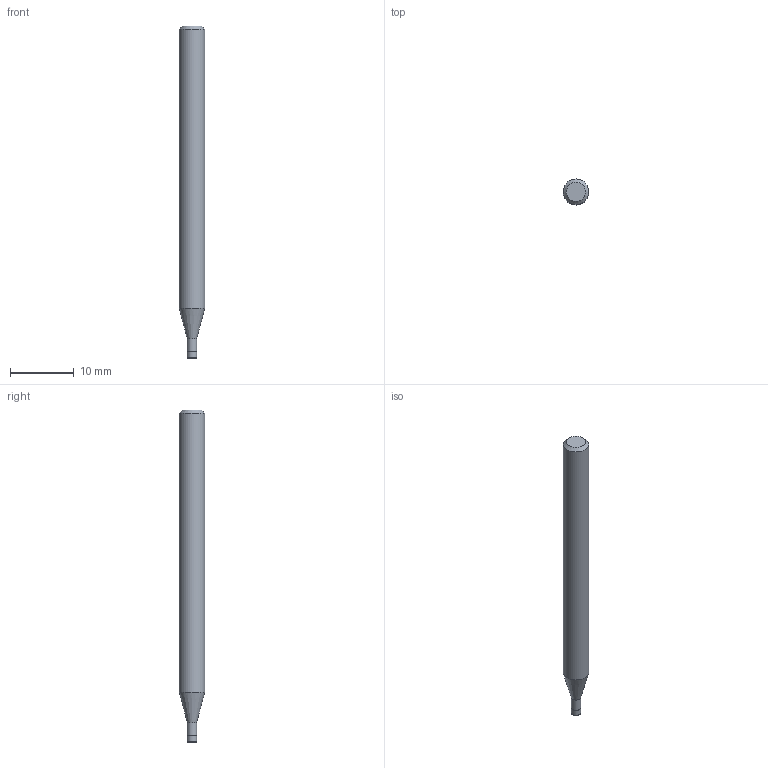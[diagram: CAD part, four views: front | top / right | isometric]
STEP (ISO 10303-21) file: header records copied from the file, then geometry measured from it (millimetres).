
FILE_DESCRIPTION((''),'2;1');
FILE_NAME('C:\Users\nsx150\AppData\Local\Temp\Mastercam 2021\KTITUSYVIC\TEMP.step','2025-03-31T18:55:34',(''),(''),'STEP Write','Mastercam 2021 ... CNC Software, Inc.','');
FILE_SCHEMA(('AUTOMOTIVE_DESIGN'));
Length unit declared in the file: millimetre
Products named in the file (1): None
Bounding box: 4 x 4 x 52 mm (x, y, z)
Volume: 589.4 mm3; surface area: 625.6 mm2
Topology: 2 solids, 2 shells, 10 faces, 14 edges, 8 vertices
Faces by surface type: plane 4, cylinder 3, cone 2, torus 1
Full cylindrical faces by diameter (mm): 1.45 x1, 1.5 x1, 4 x1
Entity records: 232 total; most frequent: DIRECTION 40, CARTESIAN_POINT 28, AXIS2_PLACEMENT_3D 20, ORIENTED_EDGE 16, EDGE_LOOP 16, STYLED_ITEM 13, ADVANCED_FACE 10, FACE_BOUND 10
